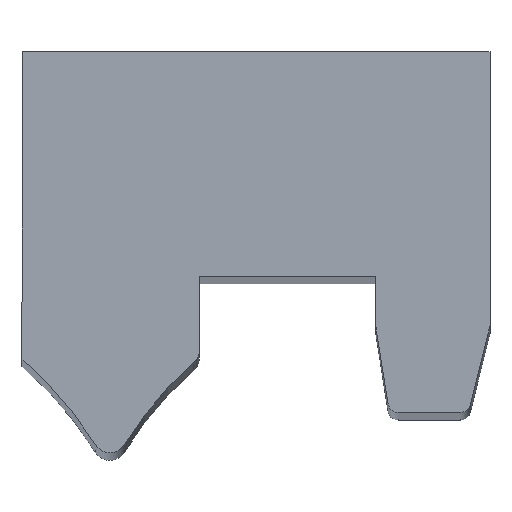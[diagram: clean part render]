
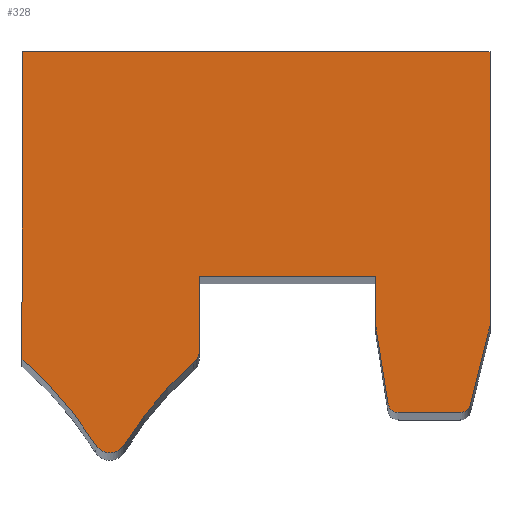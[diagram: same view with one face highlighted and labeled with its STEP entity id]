
A CAD part, top view. The second image highlights one B-rep face of the part: STEP entity #328.
In plain terms, the highlighted planar face has unit normal (0, 0, 1).
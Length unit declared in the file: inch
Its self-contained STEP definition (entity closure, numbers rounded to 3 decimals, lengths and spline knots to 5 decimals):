
#28=PLANE('',#372);
#45=FACE_OUTER_BOUND('',#62,.T.);
#62=EDGE_LOOP('',(#277,#278,#279,#280,#281,#282,#283,#284,#285,#286,#287,
#288,#289,#290,#291));
#67=LINE('',#487,#100);
#70=LINE('',#493,#103);
#73=LINE('',#499,#106);
#76=LINE('',#505,#109);
#80=LINE('',#517,#113);
#84=LINE('',#529,#117);
#87=LINE('',#535,#120);
#90=LINE('',#541,#123);
#93=LINE('',#547,#126);
#100=VECTOR('',#390,0.3937);
#103=VECTOR('',#395,0.3937);
#106=VECTOR('',#400,0.3937);
#109=VECTOR('',#405,0.3937);
#113=VECTOR('',#417,0.3937);
#117=VECTOR('',#429,0.3937);
#120=VECTOR('',#434,0.3937);
#123=VECTOR('',#439,0.3937);
#126=VECTOR('',#444,0.3937);
#131=CIRCLE('',#347,0.81906);
#133=CIRCLE('',#354,0.02362);
#135=CIRCLE('',#358,0.02362);
#137=CIRCLE('',#365,0.03937);
#139=CIRCLE('',#368,0.81906);
#141=CIRCLE('',#371,0.03937);
#144=VERTEX_POINT('',#478);
#145=VERTEX_POINT('',#480);
#147=VERTEX_POINT('',#486);
#149=VERTEX_POINT('',#492);
#151=VERTEX_POINT('',#498);
#153=VERTEX_POINT('',#504);
#155=VERTEX_POINT('',#510);
#157=VERTEX_POINT('',#516);
#159=VERTEX_POINT('',#522);
#161=VERTEX_POINT('',#528);
#163=VERTEX_POINT('',#534);
#165=VERTEX_POINT('',#540);
#167=VERTEX_POINT('',#546);
#169=VERTEX_POINT('',#552);
#171=VERTEX_POINT('',#558);
#174=EDGE_CURVE('',#145,#144,#131,.T.);
#177=EDGE_CURVE('',#147,#145,#67,.T.);
#180=EDGE_CURVE('',#149,#147,#70,.T.);
#183=EDGE_CURVE('',#151,#149,#73,.T.);
#186=EDGE_CURVE('',#153,#151,#76,.T.);
#189=EDGE_CURVE('',#155,#153,#133,.T.);
#192=EDGE_CURVE('',#157,#155,#80,.T.);
#195=EDGE_CURVE('',#159,#157,#135,.T.);
#198=EDGE_CURVE('',#161,#159,#84,.T.);
#201=EDGE_CURVE('',#163,#161,#87,.T.);
#204=EDGE_CURVE('',#165,#163,#90,.T.);
#207=EDGE_CURVE('',#167,#165,#93,.T.);
#210=EDGE_CURVE('',#169,#167,#137,.T.);
#213=EDGE_CURVE('',#171,#169,#139,.T.);
#216=EDGE_CURVE('',#144,#171,#141,.T.);
#277=ORIENTED_EDGE('',*,*,#216,.T.);
#278=ORIENTED_EDGE('',*,*,#213,.T.);
#279=ORIENTED_EDGE('',*,*,#210,.T.);
#280=ORIENTED_EDGE('',*,*,#207,.T.);
#281=ORIENTED_EDGE('',*,*,#204,.T.);
#282=ORIENTED_EDGE('',*,*,#201,.T.);
#283=ORIENTED_EDGE('',*,*,#198,.T.);
#284=ORIENTED_EDGE('',*,*,#195,.T.);
#285=ORIENTED_EDGE('',*,*,#192,.T.);
#286=ORIENTED_EDGE('',*,*,#189,.T.);
#287=ORIENTED_EDGE('',*,*,#186,.T.);
#288=ORIENTED_EDGE('',*,*,#183,.T.);
#289=ORIENTED_EDGE('',*,*,#180,.T.);
#290=ORIENTED_EDGE('',*,*,#177,.T.);
#291=ORIENTED_EDGE('',*,*,#174,.T.);
#328=ADVANCED_FACE('',(#45),#28,.T.);
#347=AXIS2_PLACEMENT_3D('',#481,#384,#385);
#354=AXIS2_PLACEMENT_3D('',#511,#411,#412);
#358=AXIS2_PLACEMENT_3D('',#523,#423,#424);
#365=AXIS2_PLACEMENT_3D('',#553,#450,#451);
#368=AXIS2_PLACEMENT_3D('',#559,#457,#458);
#371=AXIS2_PLACEMENT_3D('',#563,#464,#465);
#372=AXIS2_PLACEMENT_3D('',#564,#466,#467);
#384=DIRECTION('center_axis',(0.,0.,-1.));
#385=DIRECTION('ref_axis',(0.852,0.523,0.));
#390=DIRECTION('',(0.,-1.,0.));
#395=DIRECTION('',(-1.,0.,0.));
#400=DIRECTION('',(0.,1.,0.));
#405=DIRECTION('',(0.242,0.97,0.));
#411=DIRECTION('center_axis',(0.,0.,1.));
#412=DIRECTION('ref_axis',(0.,-1.,0.));
#417=DIRECTION('',(1.,0.,0.));
#423=DIRECTION('center_axis',(0.,0.,1.));
#424=DIRECTION('ref_axis',(-0.988,-0.156,0.));
#429=DIRECTION('',(0.156,-0.988,0.));
#434=DIRECTION('',(0.,-1.,0.));
#439=DIRECTION('',(1.,0.,0.));
#444=DIRECTION('',(0.,1.,0.));
#450=DIRECTION('center_axis',(0.,0.,1.));
#451=DIRECTION('ref_axis',(0.657,-0.754,0.));
#457=DIRECTION('center_axis',(0.,0.,-1.));
#458=DIRECTION('ref_axis',(-0.657,0.754,0.));
#464=DIRECTION('center_axis',(0.,0.,1.));
#465=DIRECTION('ref_axis',(-0.852,-0.523,0.));
#466=DIRECTION('center_axis',(0.,0.,1.));
#467=DIRECTION('ref_axis',(1.,0.,0.));
#478=CARTESIAN_POINT('',(0.23557,0.42993,10.));
#480=CARTESIAN_POINT('',(0.06743,0.62587,10.));
#481=CARTESIAN_POINT('Origin',(-0.46231,0.0012,10.));
#486=CARTESIAN_POINT('',(0.06743,1.3323,10.));
#487=CARTESIAN_POINT('',(0.06743,1.3323,10.));
#492=CARTESIAN_POINT('',(1.14224,1.3323,10.));
#493=CARTESIAN_POINT('',(1.14224,1.3323,10.));
#498=CARTESIAN_POINT('',(1.14224,0.70237,10.));
#499=CARTESIAN_POINT('',(1.14224,0.70237,10.));
#504=CARTESIAN_POINT('',(1.09713,0.52146,10.));
#505=CARTESIAN_POINT('',(1.14224,0.70237,10.));
#510=CARTESIAN_POINT('',(1.07421,0.50356,10.));
#511=CARTESIAN_POINT('Origin',(1.07421,0.52718,10.));
#516=CARTESIAN_POINT('',(0.93142,0.50356,10.));
#517=CARTESIAN_POINT('',(1.07421,0.50356,10.));
#522=CARTESIAN_POINT('',(0.90808,0.52348,10.));
#523=CARTESIAN_POINT('Origin',(0.93142,0.52718,10.));
#528=CARTESIAN_POINT('',(0.87975,0.70237,10.));
#529=CARTESIAN_POINT('',(0.90808,0.52348,10.));
#534=CARTESIAN_POINT('',(0.87975,0.81655,10.));
#535=CARTESIAN_POINT('',(0.87975,0.70237,10.));
#540=CARTESIAN_POINT('',(0.47503,0.81655,10.));
#541=CARTESIAN_POINT('',(0.87975,0.81655,10.));
#546=CARTESIAN_POINT('',(0.47503,0.64702,10.));
#547=CARTESIAN_POINT('',(0.47503,0.81655,10.));
#552=CARTESIAN_POINT('',(0.46153,0.61734,10.));
#553=CARTESIAN_POINT('Origin',(0.43566,0.64702,10.));
#558=CARTESIAN_POINT('',(0.30263,0.42988,10.));
#559=CARTESIAN_POINT('Origin',(0.9998,0.,10.));
#563=CARTESIAN_POINT('Origin',(0.26911,0.45054,10.));
#564=CARTESIAN_POINT('Origin',(0.60483,0.87173,10.));
